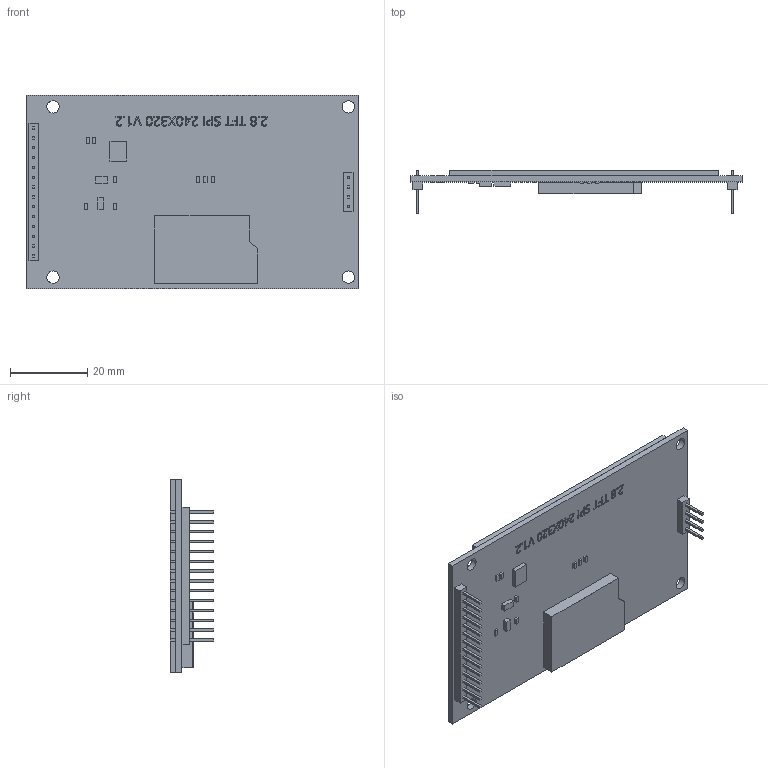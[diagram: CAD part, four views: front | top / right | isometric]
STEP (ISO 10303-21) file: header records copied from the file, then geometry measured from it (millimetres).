
FILE_DESCRIPTION(/* description */ (''),/* implementation_level */ '2;1');
FILE_NAME(/* name */ 'C:/Users/mak/Desktop/乾燥実験/KiCAD/部品図面/MSP2807 v16.step',/* time_stamp */ '2022-05-09T21:27:44+09:00',/* author */ (''),/* organization */ (''),/* preprocessor_version */ 'ST-DEVELOPER v18.1',/* originating_system */ 'Autodesk Translation Framework v10.14.0.1471',/* authorisation */ '');
FILE_SCHEMA (('AUTOMOTIVE_DESIGN { 1 0 10303 214 3 1 1 }'));
Length unit declared in the file: millimetre
Products named in the file (1): MSP2807
Bounding box: 85.8 x 11.2 x 50 mm (x, y, z)
Volume: 12166.4 mm3; surface area: 19405.5 mm2
Topology: 55 solids, 55 shells, 784 faces, 2022 edges, 1348 vertices
Faces by surface type: plane 439, bspline 323, cylinder 22
Full cylindrical faces by diameter (mm): 1 x18, 3.2 x4
Entity records: 26862 total; most frequent: CARTESIAN_POINT 9646, ORIENTED_EDGE 4044, DIRECTION 2344, EDGE_CURVE 2022, VERTEX_POINT 1348, LINE 1332, VECTOR 1332, EDGE_LOOP 878
